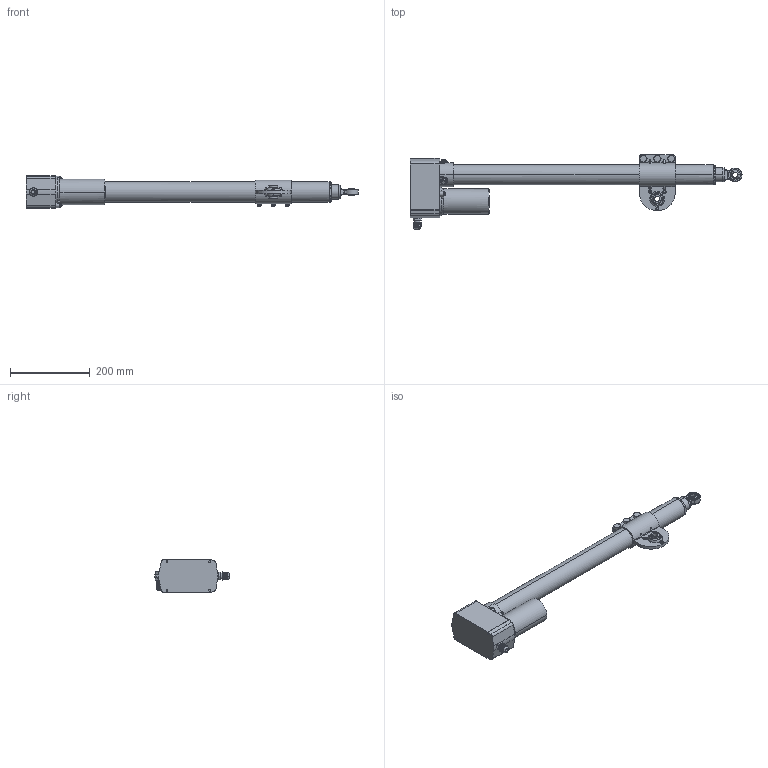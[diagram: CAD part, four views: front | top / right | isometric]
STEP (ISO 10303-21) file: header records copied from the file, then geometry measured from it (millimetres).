
FILE_DESCRIPTION((''),'2;1');
FILE_NAME('ID16-ASM_ASM','2016-12-08T',('hank'),(''),'PRO/ENGINEER BY PARAMETRIC TECHNOLOGY CORPORATION, 2014200','PRO/ENGINEER BY PARAMETRIC TECHNOLOGY CORPORATION, 2014200','');
FILE_SCHEMA(('CONFIG_CONTROL_DESIGN'));
Products named in the file (3): ID16-GEARBOX; ID16-INNERTUBE; ID16-ASM_ASM
Assembly tree (2 placements, depth 2):
  ID16-ASM_ASM
    ID16-GEARBOX
    ID16-INNERTUBE
Bounding box: 830.4 x 185.93 x 82 mm (x, y, z)
Volume: 1368538.5 mm3; surface area: 543070.8 mm2
Topology: 3 solids, 21 shells, 1260 faces, 3169 edges, 2015 vertices
Faces by surface type: plane 446, cylinder 412, bspline 230, cone 98, torus 60, sphere 14
Entity records: 58962 total; most frequent: CARTESIAN_POINT 31291, ORIENTED_EDGE 6338, DIRECTION 4806, EDGE_CURVE 3169, VERTEX_POINT 2015, AXIS2_PLACEMENT_3D 1792, EDGE_LOOP 1342, FACE_OUTER_BOUND 1260
